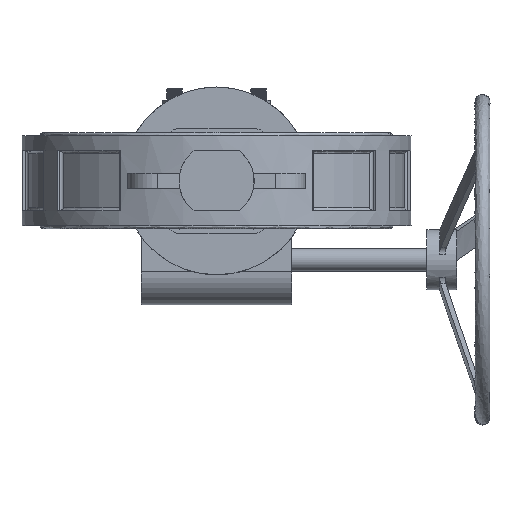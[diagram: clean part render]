
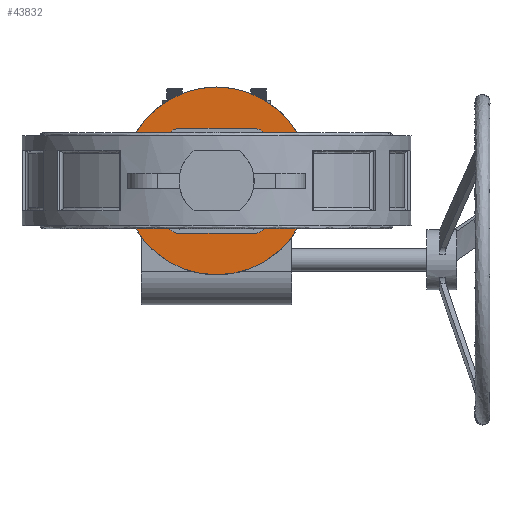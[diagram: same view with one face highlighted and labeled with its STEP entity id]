
A CAD part, front view. The second image highlights one B-rep face of the part: STEP entity #43832.
In plain terms, the highlighted planar face has unit normal (0, -1, 0).
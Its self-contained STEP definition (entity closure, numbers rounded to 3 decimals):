
#21 = DIRECTION ( 'NONE',  ( 0., 0., 1. ) ) ;
#393 = EDGE_CURVE ( 'NONE', #8419, #8419, #14216, .T. ) ;
#2822 = LINE ( 'NONE', #14928, #41465 ) ;
#3503 = CARTESIAN_POINT ( 'NONE',  ( -58.811, 239.217, -25. ) ) ;
#4629 = PLANE ( 'NONE',  #50312 ) ;
#5053 = ORIENTED_EDGE ( 'NONE', *, *, #5893, .F. ) ;
#5893 = EDGE_CURVE ( 'NONE', #15200, #15076, #19071, .T. ) ;
#6829 = CIRCLE ( 'NONE', #18083, 10. ) ;
#7587 = DIRECTION ( 'NONE',  ( 0., 1., 0. ) ) ;
#7918 = CARTESIAN_POINT ( 'NONE',  ( -2.823, 239.217, 32.143 ) ) ;
#8288 = DIRECTION ( 'NONE',  ( 0., -1., 0. ) ) ;
#8419 = VERTEX_POINT ( 'NONE', #49767 ) ;
#9263 = EDGE_CURVE ( 'NONE', #15076, #14743, #46419, .T. ) ;
#10014 = VERTEX_POINT ( 'NONE', #13881 ) ;
#10367 = DIRECTION ( 'NONE',  ( 0., 0., 1. ) ) ;
#10842 = DIRECTION ( 'NONE',  ( 0., 0., 1. ) ) ;
#11791 = EDGE_CURVE ( 'NONE', #47450, #10014, #14478, .T. ) ;
#12156 = ORIENTED_EDGE ( 'NONE', *, *, #33501, .F. ) ;
#13406 = ORIENTED_EDGE ( 'NONE', *, *, #33574, .F. ) ;
#13673 = VERTEX_POINT ( 'NONE', #7918 ) ;
#13881 = CARTESIAN_POINT ( 'NONE',  ( -2.823, 239.217, -32.143 ) ) ;
#14216 = CIRCLE ( 'NONE', #28024, 62.5 ) ;
#14478 = CIRCLE ( 'NONE', #25702, 10. ) ;
#14743 = VERTEX_POINT ( 'NONE', #26806 ) ;
#14836 = CARTESIAN_POINT ( 'NONE',  ( -34.316, 239.217, 0. ) ) ;
#14928 = CARTESIAN_POINT ( 'NONE',  ( -62.601, 239.217, 35. ) ) ;
#15076 = VERTEX_POINT ( 'NONE', #51571 ) ;
#15200 = VERTEX_POINT ( 'NONE', #41838 ) ;
#15527 = AXIS2_PLACEMENT_3D ( 'NONE', #14836, #48607, #43478 ) ;
#17300 = DIRECTION ( 'NONE',  ( 1., 0., 0. ) ) ;
#17382 = CARTESIAN_POINT ( 'NONE',  ( -58.811, 239.217, 25. ) ) ;
#18083 = AXIS2_PLACEMENT_3D ( 'NONE', #23564, #18986, #10842 ) ;
#18683 = DIRECTION ( 'NONE',  ( 0., -1., 0. ) ) ;
#18986 = DIRECTION ( 'NONE',  ( 0., -1., 0. ) ) ;
#19071 = CIRCLE ( 'NONE', #44057, 10. ) ;
#21262 = DIRECTION ( 'NONE',  ( 0., 0., 1. ) ) ;
#21387 = AXIS2_PLACEMENT_3D ( 'NONE', #45315, #18683, #21 ) ;
#23564 = CARTESIAN_POINT ( 'NONE',  ( -9.821, 239.217, 25. ) ) ;
#24467 = ORIENTED_EDGE ( 'NONE', *, *, #33785, .F. ) ;
#24588 = EDGE_LOOP ( 'NONE', ( #26692 ) ) ;
#25456 = EDGE_LOOP ( 'NONE', ( #27376, #30550, #5053, #39156, #12156, #24467, #52923, #13406 ) ) ;
#25702 = AXIS2_PLACEMENT_3D ( 'NONE', #45324, #8288, #21262 ) ;
#26692 = ORIENTED_EDGE ( 'NONE', *, *, #393, .F. ) ;
#26806 = CARTESIAN_POINT ( 'NONE',  ( -65.81, 239.217, -32.143 ) ) ;
#27302 = VERTEX_POINT ( 'NONE', #42171 ) ;
#27376 = ORIENTED_EDGE ( 'NONE', *, *, #32263, .F. ) ;
#28024 = AXIS2_PLACEMENT_3D ( 'NONE', #52202, #47911, #10367 ) ;
#28342 = CARTESIAN_POINT ( 'NONE',  ( -9.821, 239.217, -35. ) ) ;
#28386 = FACE_BOUND ( 'NONE', #25456, .T. ) ;
#28567 = VERTEX_POINT ( 'NONE', #34721 ) ;
#28874 = EDGE_CURVE ( 'NONE', #27302, #15200, #2822, .T. ) ;
#30550 = ORIENTED_EDGE ( 'NONE', *, *, #9263, .F. ) ;
#31650 = DIRECTION ( 'NONE',  ( -1., 0., 0. ) ) ;
#32263 = EDGE_CURVE ( 'NONE', #14743, #28567, #34835, .T. ) ;
#33501 = EDGE_CURVE ( 'NONE', #13673, #27302, #6829, .T. ) ;
#33574 = EDGE_CURVE ( 'NONE', #28567, #47450, #44884, .T. ) ;
#33785 = EDGE_CURVE ( 'NONE', #10014, #13673, #47424, .T. ) ;
#34135 = DIRECTION ( 'NONE',  ( 0., -1., 0. ) ) ;
#34721 = CARTESIAN_POINT ( 'NONE',  ( -58.811, 239.217, -35. ) ) ;
#34835 = CIRCLE ( 'NONE', #39160, 10. ) ;
#37898 = DIRECTION ( 'NONE',  ( 0., 0., 1. ) ) ;
#39156 = ORIENTED_EDGE ( 'NONE', *, *, #28874, .F. ) ;
#39160 = AXIS2_PLACEMENT_3D ( 'NONE', #3503, #40478, #48855 ) ;
#40478 = DIRECTION ( 'NONE',  ( 0., -1., 0. ) ) ;
#41366 = CARTESIAN_POINT ( 'NONE',  ( -34.316, 239.217, 0. ) ) ;
#41465 = VECTOR ( 'NONE', #31650, 1000. ) ;
#41838 = CARTESIAN_POINT ( 'NONE',  ( -58.811, 239.217, 35. ) ) ;
#42171 = CARTESIAN_POINT ( 'NONE',  ( -9.821, 239.217, 35. ) ) ;
#43478 = DIRECTION ( 'NONE',  ( 0., 0., 1. ) ) ;
#43832 = ADVANCED_FACE ( 'NONE', ( #28386, #44894 ), #4629, .F. ) ;
#44057 = AXIS2_PLACEMENT_3D ( 'NONE', #17382, #34135, #37898 ) ;
#44884 = LINE ( 'NONE', #45152, #48271 ) ;
#44894 = FACE_OUTER_BOUND ( 'NONE', #24588, .T. ) ;
#45152 = CARTESIAN_POINT ( 'NONE',  ( -62.601, 239.217, -35. ) ) ;
#45315 = CARTESIAN_POINT ( 'NONE',  ( -34.316, 239.217, 0. ) ) ;
#45324 = CARTESIAN_POINT ( 'NONE',  ( -9.821, 239.217, -25. ) ) ;
#46419 = CIRCLE ( 'NONE', #21387, 45. ) ;
#47424 = CIRCLE ( 'NONE', #15527, 45. ) ;
#47450 = VERTEX_POINT ( 'NONE', #28342 ) ;
#47911 = DIRECTION ( 'NONE',  ( 0., 1., 0. ) ) ;
#48271 = VECTOR ( 'NONE', #17300, 1000. ) ;
#48607 = DIRECTION ( 'NONE',  ( 0., -1., 0. ) ) ;
#48855 = DIRECTION ( 'NONE',  ( 0., 0., 1. ) ) ;
#49195 = DIRECTION ( 'NONE',  ( 0., 0., 1. ) ) ;
#49767 = CARTESIAN_POINT ( 'NONE',  ( -34.316, 239.217, 62.5 ) ) ;
#50312 = AXIS2_PLACEMENT_3D ( 'NONE', #41366, #7587, #49195 ) ;
#51571 = CARTESIAN_POINT ( 'NONE',  ( -65.81, 239.217, 32.143 ) ) ;
#52202 = CARTESIAN_POINT ( 'NONE',  ( -34.316, 239.217, 0. ) ) ;
#52923 = ORIENTED_EDGE ( 'NONE', *, *, #11791, .F. ) ;
